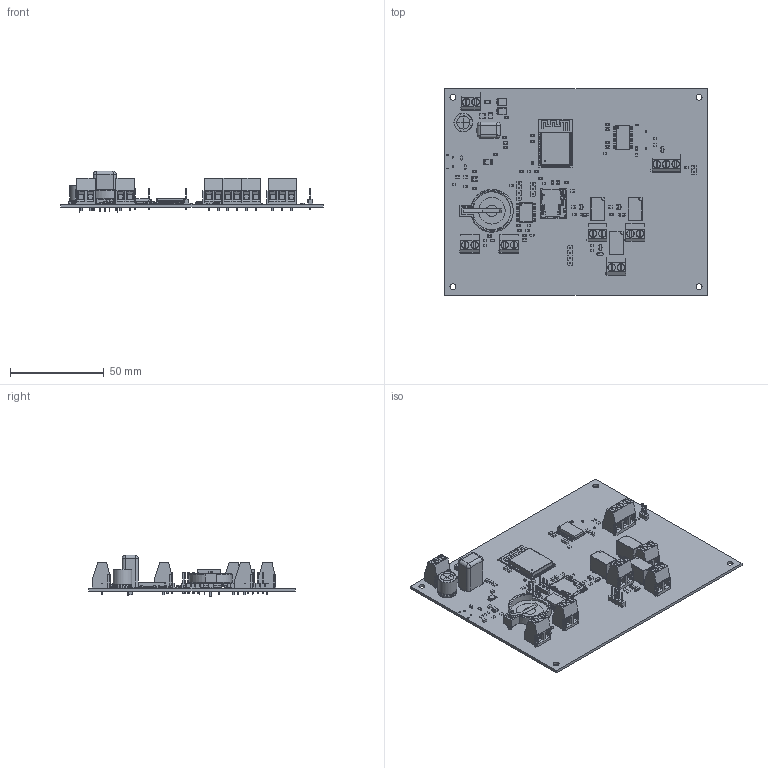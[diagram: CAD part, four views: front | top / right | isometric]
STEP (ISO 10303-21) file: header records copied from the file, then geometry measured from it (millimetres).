
FILE_DESCRIPTION(('KiCad electronic assembly'),'2;1');
FILE_NAME('DCAB-A01-____.step','2026-10-06T01:14:50',('Pcbnew'),('Kicad' ),'Open CASCADE STEP processor 7.9','KiCad to STEP converter', 'Unknown');
FILE_SCHEMA(('AUTOMOTIVE_DESIGN { 1 0 10303 214 1 1 1 1 }'));
Length unit declared in the file: millimetre
Products named in the file (56): DCAB-A01-____ 1; D_SMB; L_0402_1005Metric; R_0402_1005Metric; Relay_SPDT_Omron_G5V-1; R_0805_2012Metric; D_SOD-323; SOIC-16W_7.5x10.3mm_P1.27mm; C_0805_2012Metric; PinHeader_1x02_P2.54mm_Vertical; PinHeader_1x02_P254mm_Vertical; SOT-23; TerminalBlock_Phoenix_MKDS-1,5-2_1x02_P5.00mm_Horizontal; C_0402_1005Metric; BatteryHolder_Keystone_103_1x20mm; Keystone_103; PinHeader_1x03_P2.54mm_Vertical; PinHeader_1x03_P254mm_Vertical; SOIC-20W_7.5x12.8mm_P1.27mm; Fuse_1206_3216Metric; LED_0805_2012Metric; PinHeader_1x04_P2.54mm_Vertical; PinHeader_1x04_P254mm_Vertical; CP_Radial_D10.0mm_P5.00mm; CP_Radial_D100mm_P500mm; C_1210_3225Metric; SOT-23-5; microSD_HC_Hirose_DM3AT-SF-PEJM5; D_SOD-123; TSSOP-10_3x3mm_P0.5mm; tsr1wi; TSR 1WI; ESP32-S3-WROOM-1; TerminalBlock_Phoenix_MKDS-1,5-3_1x03_P5.00mm_Horizontal; DCAB-A01_PCB
Assembly tree (121 placements, depth 3):
  DCAB-A01-____ 1
    D_SMB  x2
      D_SMB
    L_0402_1005Metric  x2
      L_0402_1005Metric
    R_0402_1005Metric  x2
      R_0402_1005Metric
    Relay_SPDT_Omron_G5V-1  x3
      Relay_SPDT_Omron_G5V-1
    R_0805_2012Metric  x28
      R_0805_2012Metric
    D_SOD-323  x4
      D_SOD-323
    SOIC-16W_7.5x10.3mm_P1.27mm
      SOIC-16W_7.5x10.3mm_P1.27mm
    C_0805_2012Metric  x19
      C_0805_2012Metric
    PinHeader_1x02_P2.54mm_Vertical
      PinHeader_1x02_P254mm_Vertical
    SOT-23  x4
      SOT-23
    TerminalBlock_Phoenix_MKDS-1,5-2_1x02_P5.00mm_Horizontal  x6
      TerminalBlock_Phoenix_MKDS-1,5-2_1x02_P5.00mm_Horizontal
    C_0402_1005Metric  x2
      C_0402_1005Metric
    BatteryHolder_Keystone_103_1x20mm
      Keystone_103
    PinHeader_1x03_P2.54mm_Vertical
      PinHeader_1x03_P254mm_Vertical
    SOIC-20W_7.5x12.8mm_P1.27mm
      SOIC-20W_7.5x12.8mm_P1.27mm
    Fuse_1206_3216Metric
      Fuse_1206_3216Metric
    LED_0805_2012Metric
      LED_0805_2012Metric
    PinHeader_1x04_P2.54mm_Vertical  x2
      PinHeader_1x04_P254mm_Vertical
    CP_Radial_D10.0mm_P5.00mm
      CP_Radial_D100mm_P500mm
    C_1210_3225Metric  x2
      C_1210_3225Metric
    SOT-23-5
      SOT-23-5
    microSD_HC_Hirose_DM3AT-SF-PEJM5
      microSD_HC_Hirose_DM3AT-SF-PEJM5
    D_SOD-123  x3
      D_SOD-123
    TSSOP-10_3x3mm_P0.5mm
      TSSOP-10_3x3mm_P0.5mm
    tsr1wi
      TSR 1WI
    ESP32-S3-WROOM-1
      ESP32-S3-WROOM-1
    TerminalBlock_Phoenix_MKDS-1,5-3_1x03_P5.00mm_Horizontal
      TerminalBlock_Phoenix_MKDS-1,5-3_1x03_P5.00mm_Horizontal
    DCAB-A01_PCB
Bounding box: 140 x 110 x 22.15 mm (x, y, z)
Volume: 38576.3 mm3; surface area: 51962.7 mm2
Topology: 145 solids, 146 shells, 6863 faces, 17487 edges, 11034 vertices
Faces by surface type: plane 5188, cylinder 1320, bspline 333, torus 11, revolution 4, sphere 4, cone 3
Full cylindrical faces by diameter (mm): 0.25 x12, 0.5 x1, 0.7 x2, 1 x23, 1.02 x13, 1.3 x15, 1.5 x2, 1.57 x3, 3.2 x4, 3.8 x15, 4 x15, 6.066 x1, 14.154 x1
Entity records: 159428 total; most frequent: CARTESIAN_POINT 24088, ORIENTED_EDGE 22061, DIRECTION 20956, EDGE_CURVE 11031, LINE 9192, VECTOR 9192, VERTEX_POINT 6893, AXIS2_PLACEMENT_3D 5880
